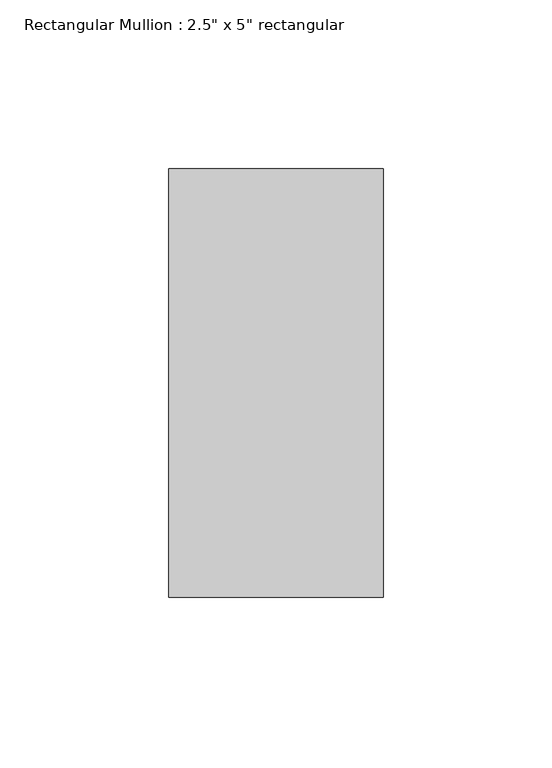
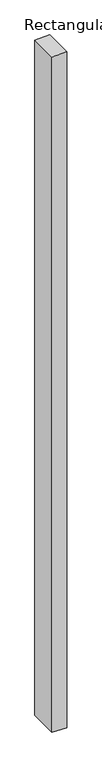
"""IFC4 building model written with IfcOpenShell, lengths in millimetres: member geometry."""

from ifc_helpers import new_model, si_unit, frame, origin, place, context, project, spatial, polyline, outline, extrude, source, transform, mapped, element, save


def member_b57fb3e6(model_context):
    return source(origin(), model_context, "Body", "SweptSolid", [
        extrude(outline(polyline([(0.0, 0.0), (-1.0411789, -63.5), (-3068.7547876, -63.5), (-3070.0036624, 0.0), (0.0, 0.0)])), frame((0.0, -63.5, 0.0), z_axis=(0.0, 1.0, 0.0), x_axis=(0.0, 0.0, 1.0)), (0.0, 0.0, 1.0), 127.0),
    ])


if __name__ == "__main__":
    model = new_model("IFC4")
    model_context = context("Model", 3, world=origin())
    ifc_project = project(units=[si_unit("LENGTHUNIT", "METRE", prefix="MILLI")], contexts=[model_context])
    site = spatial("IfcSite", under=ifc_project)
    building = spatial("IfcBuilding", under=site)
    placement = place(None, origin())
    member_shape = member_b57fb3e6(model_context)
    element("IfcMember", 1, ObjectType="Rectangular Mullion : 2.5\" x 5\" rectangular", at=placement, inside=building, context=model_context, shape_type="MappedRepresentation", body=[
        mapped(member_shape, transform((0.0, 0.0, 0.0), x_axis=(1.0, 0.0, 0.0), y_axis=(0.0, 1.0, 0.0), z_axis=(0.0, 0.0, 1.0))),
    ])
    save(model, "model.ifc")
